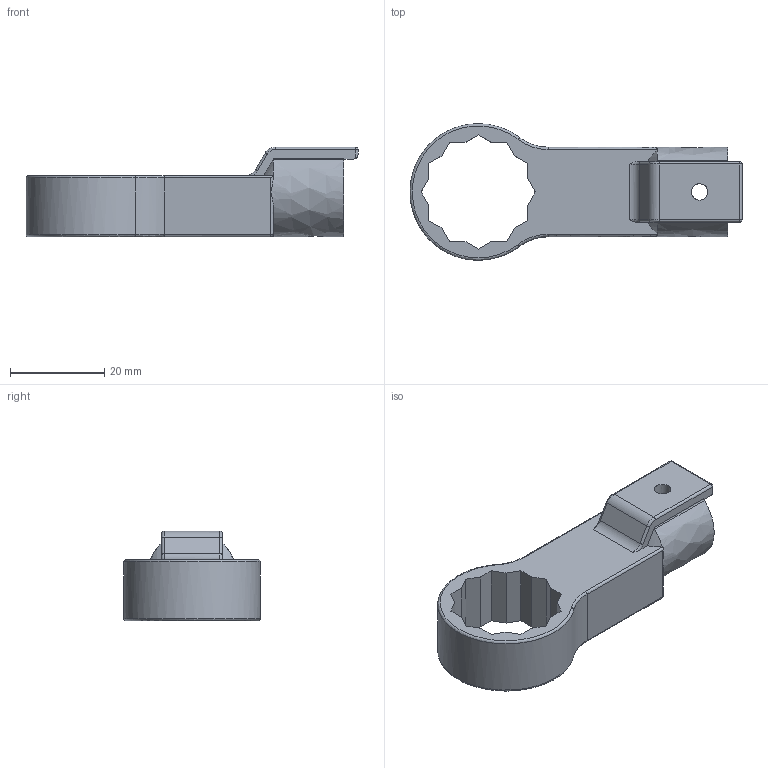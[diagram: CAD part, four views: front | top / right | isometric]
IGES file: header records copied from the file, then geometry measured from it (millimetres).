
Global section: file name: RH12DX21; native system: Autodesk Inventor 2016; preprocessor: unknown; author: Q532; date: 20151110.160746; units: millimetre
Bounding box: 70.49 x 29 x 19 mm (x, y, z)
Volume: 12300.4 mm3; surface area: 5999.9 mm2
Topology: 1 solids, 1 shells, 87 faces, 235 edges, 146 vertices
Faces by surface type: bspline 87
